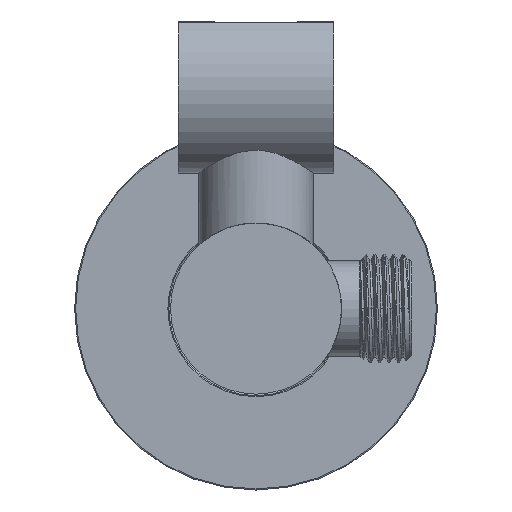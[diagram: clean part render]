
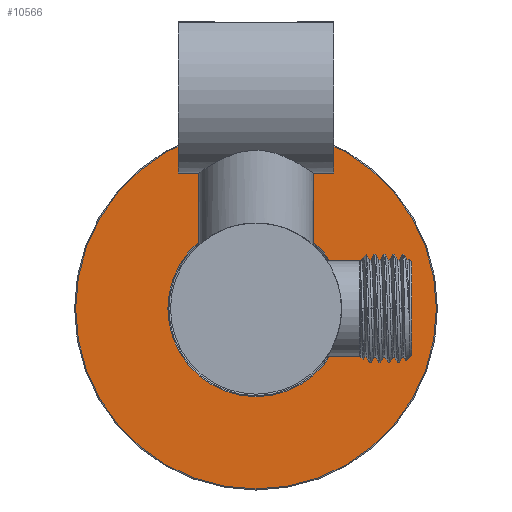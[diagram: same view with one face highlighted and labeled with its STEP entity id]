
A CAD part, left-side view. The second image highlights one B-rep face of the part: STEP entity #10566.
In plain terms, the highlighted planar face has unit normal (-1, 0, 0) as drawn and (0, 1, 0) by its records, which use the part's own axes.
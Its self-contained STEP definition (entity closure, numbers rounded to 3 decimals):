
#2545=CARTESIAN_POINT('',(0.,5.,0.));
#2546=DIRECTION('',(0.,-1.,0.));
#2547=DIRECTION('',(0.,0.,1.));
#2548=AXIS2_PLACEMENT_3D('',#2545,#2546,#2547);
#2550=CARTESIAN_POINT('',(0.,5.,0.));
#2551=DIRECTION('',(0.,-1.,0.));
#2552=DIRECTION('',(0.,0.,-1.));
#2553=AXIS2_PLACEMENT_3D('',#2550,#2551,#2552);
#2555=CARTESIAN_POINT('',(0.,5.,0.));
#2556=DIRECTION('',(0.,-1.,0.));
#2557=DIRECTION('',(0.,0.,1.));
#2558=AXIS2_PLACEMENT_3D('',#2555,#2556,#2557);
#2560=CARTESIAN_POINT('',(0.,5.,0.));
#2561=DIRECTION('',(0.,-1.,0.));
#2562=DIRECTION('',(0.,0.,-1.));
#2563=AXIS2_PLACEMENT_3D('',#2560,#2561,#2562);
#8605=CARTESIAN_POINT('',(0.,5.,34.8));
#8606=CARTESIAN_POINT('',(0.,5.,-34.8));
#8607=VERTEX_POINT('',#8605);
#8608=VERTEX_POINT('',#8606);
#8609=CARTESIAN_POINT('',(0.,5.,17.));
#8610=CARTESIAN_POINT('',(0.,5.,-17.));
#8611=VERTEX_POINT('',#8609);
#8612=VERTEX_POINT('',#8610);
#10549=CARTESIAN_POINT('',(0.,5.,0.));
#10550=DIRECTION('',(0.,1.,0.));
#10551=DIRECTION('',(0.,0.,-1.));
#10552=AXIS2_PLACEMENT_3D('',#10549,#10550,#10551);
#10553=PLANE('',#10552);
#10555=ORIENTED_EDGE('',*,*,#10554,.T.);
#10557=ORIENTED_EDGE('',*,*,#10556,.T.);
#10558=EDGE_LOOP('',(#10555,#10557));
#10559=FACE_OUTER_BOUND('',#10558,.F.);
#10561=ORIENTED_EDGE('',*,*,#10560,.F.);
#10563=ORIENTED_EDGE('',*,*,#10562,.F.);
#10564=EDGE_LOOP('',(#10561,#10563));
#10565=FACE_BOUND('',#10564,.F.);
#10566=ADVANCED_FACE('',(#10559,#10565),#10553,.T.);
#2549=CIRCLE('',#2548,34.8);
#2554=CIRCLE('',#2553,34.8);
#2559=CIRCLE('',#2558,17.);
#2564=CIRCLE('',#2563,17.);
#10554=EDGE_CURVE('',#8607,#8608,#2549,.T.);
#10556=EDGE_CURVE('',#8608,#8607,#2554,.T.);
#10560=EDGE_CURVE('',#8611,#8612,#2559,.T.);
#10562=EDGE_CURVE('',#8612,#8611,#2564,.T.);
